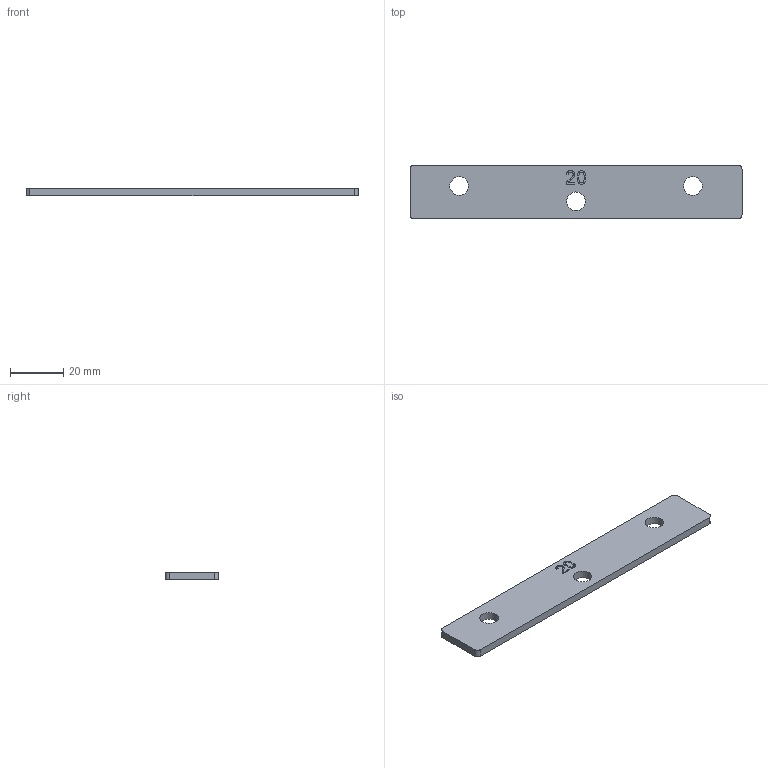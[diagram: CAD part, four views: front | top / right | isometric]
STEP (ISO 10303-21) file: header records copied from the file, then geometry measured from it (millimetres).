
FILE_DESCRIPTION(('STEP AP242'),'1');
FILE_NAME('r Allmatic und Garant.stp','2024-06-17T13:15:02',('WM'),('Schleif-Tec'),'Spatial InterOp 3D','CimatronE 16.0',' ');
FILE_SCHEMA(('AP242_MANAGED_MODEL_BASED_3D_ENGINEERING_MIM_LF'));
Length unit declared in the file: millimetre
Products named in the file (1): 13
Bounding box: 125 x 20 x 3 mm (x, y, z)
Volume: 7145 mm3; surface area: 5834.6 mm2
Topology: 1 solids, 1 shells, 24 faces, 60 edges, 41 vertices
Faces by surface type: plane 13, cylinder 7, extrusion 4
Full cylindrical faces by diameter (mm): 7 x3
Entity records: 1276 total; most frequent: CARTESIAN_POINT 501, ORIENTED_EDGE 108, DIRECTION 106, EDGE_CURVE 54, VERTEX_POINT 38, EDGE_LOOP 36, VECTOR 36, AXIS2_PLACEMENT_3D 35
